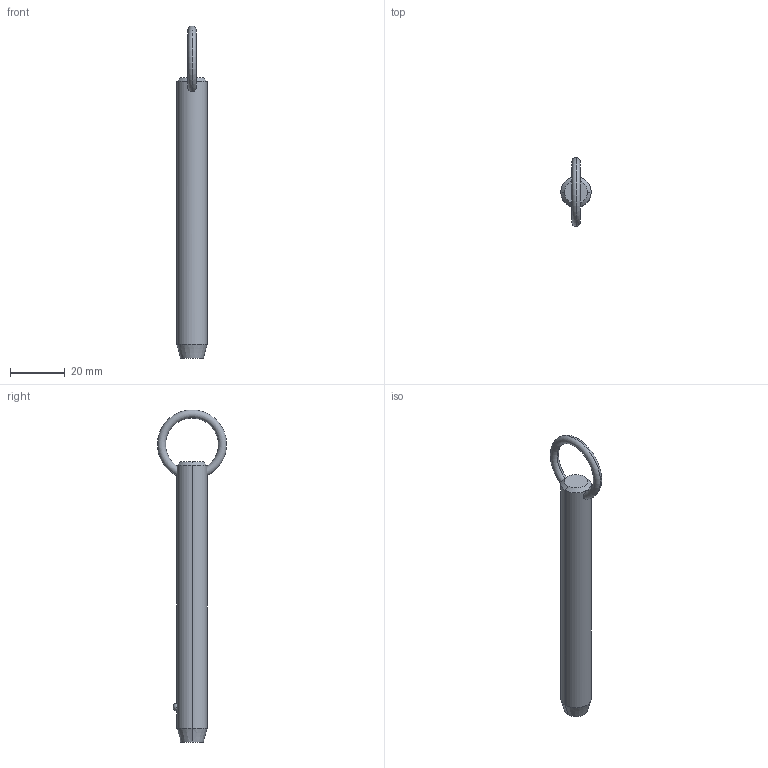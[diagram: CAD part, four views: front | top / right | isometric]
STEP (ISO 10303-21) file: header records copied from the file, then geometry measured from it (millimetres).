
FILE_DESCRIPTION (( 'STEP AP203' ), '1' );
FILE_NAME ('P1250.050-320.step', '2019-07-29T20:34:12', ( '' ), ( '' ), 'SwSTEP 2.0', 'SolidWorks 2017', '' );
FILE_SCHEMA (( 'CONFIG_CONTROL_DESIGN' ));
Length unit declared in the file: millimetre
Products named in the file (1): P1250.050-320
Bounding box: 11.1 x 25.32 x 121.85 mm (x, y, z)
Volume: 10240.2 mm3; surface area: 4240.9 mm2
Topology: 1 solids, 1 shells, 12 faces, 28 edges, 17 vertices
Faces by surface type: cone 4, torus 2, sphere 2, cylinder 2, plane 2
Entity records: 523 total; most frequent: CARTESIAN_POINT 190, DIRECTION 56, ORIENTED_EDGE 48, AXIS2_PLACEMENT_3D 25, EDGE_CURVE 24, VERTEX_POINT 15, EDGE_LOOP 15, ADVANCED_FACE 12
